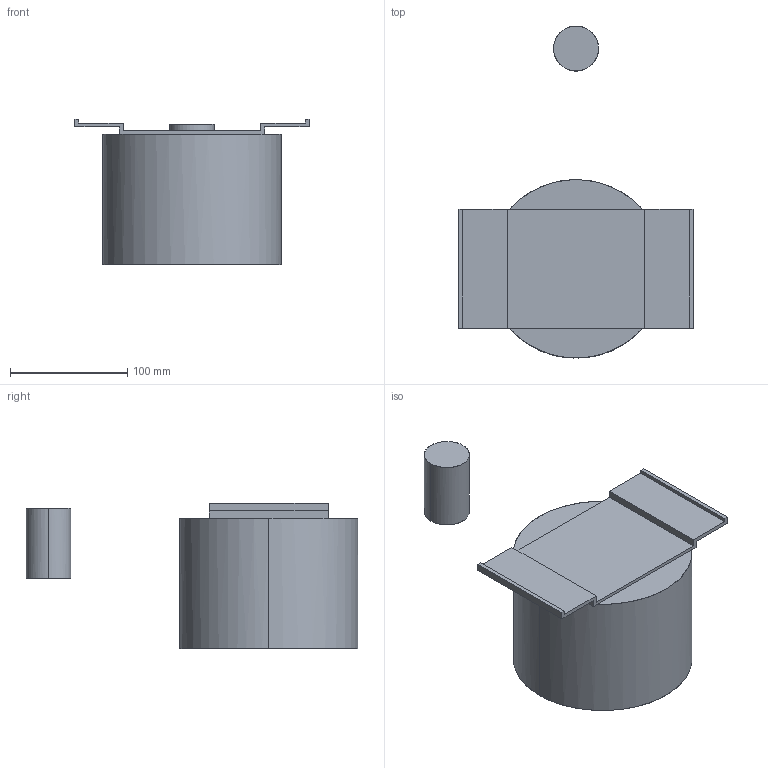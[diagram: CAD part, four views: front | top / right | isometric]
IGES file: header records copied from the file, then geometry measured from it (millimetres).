
Start section: Comment
Global section: file name: EA3X112 X12D.igs; native system:  By UGS Corp.; preprocessor: XPlus GENERIC/IGES 3.0; author: Author; organization: Title; date: 20160613.151010; units: millimetre
Bounding box: 200.03 x 283.47 x 123.83 mm (x, y, z)
Surface area: 120772.4 mm2 (no closed solid volume)
Topology: 0 solids, 0 shells, 32 faces, 152 edges, 152 vertices
Faces by surface type: bspline 32
